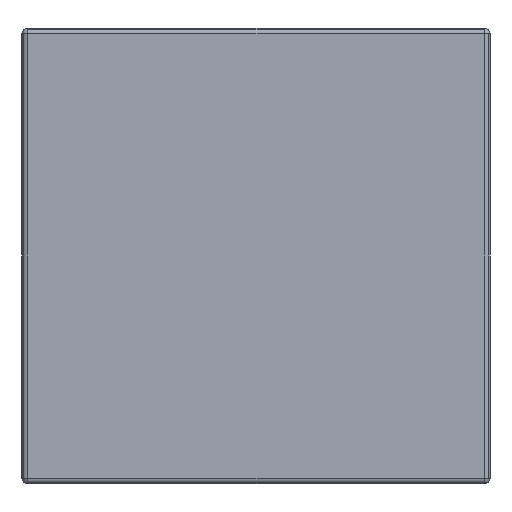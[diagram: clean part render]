
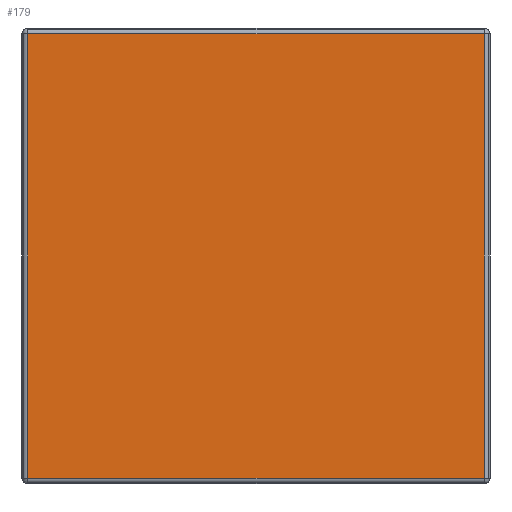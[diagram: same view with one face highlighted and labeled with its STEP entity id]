
A CAD part, left-side view. The second image highlights one B-rep face of the part: STEP entity #179.
In plain terms, the highlighted planar face has unit normal (-1, 0, 0).
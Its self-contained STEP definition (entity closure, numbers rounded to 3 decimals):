
#179=ADVANCED_FACE('',(#385),#386,.T.);
#385=FACE_OUTER_BOUND('',#601,.T.);
#386=PLANE('',#602);
#601=EDGE_LOOP('',(#1354,#1355,#1356,#1357));
#602=AXIS2_PLACEMENT_3D('',#1358,#1359,#1360);
#1354=ORIENTED_EDGE('',*,*,#1555,.F.);
#1355=ORIENTED_EDGE('',*,*,#1575,.T.);
#1356=ORIENTED_EDGE('',*,*,#1643,.T.);
#1357=ORIENTED_EDGE('',*,*,#1642,.F.);
#1358=CARTESIAN_POINT('',(-100.0,43.3,0.0));
#1359=DIRECTION('',(-1.0,-0.0,0.0));
#1360=DIRECTION('',(0.0,-1.0,-0.0));
#1555=EDGE_CURVE('',#1897,#1899,#1900,.T.);
#1575=EDGE_CURVE('',#1897,#1933,#1935,.T.);
#1642=EDGE_CURVE('',#1899,#2023,#2027,.T.);
#1643=EDGE_CURVE('',#1933,#2023,#2028,.T.);
#1897=VERTEX_POINT('',#2358);
#1899=VERTEX_POINT('',#2360);
#1900=LINE('',#2361,#2362);
#1933=VERTEX_POINT('',#2404);
#1935=LINE('',#2406,#2407);
#2023=VERTEX_POINT('',#2513);
#2027=LINE('',#2518,#2519);
#2028=LINE('',#2520,#2521);
#2358=CARTESIAN_POINT('',(-100.0,61.3,-78.0));
#2360=CARTESIAN_POINT('',(-100.0,61.3,78.0));
#2361=CARTESIAN_POINT('',(-100.0,61.3,0.0));
#2362=VECTOR('',#2826,200.0);
#2404=CARTESIAN_POINT('',(-100.0,-99.1,-78.0));
#2406=CARTESIAN_POINT('',(-100.0,43.3,-78.0));
#2407=VECTOR('',#2866,200.0);
#2513=CARTESIAN_POINT('',(-100.0,-99.1,78.0));
#2518=CARTESIAN_POINT('',(-100.0,43.3,78.0));
#2519=VECTOR('',#3027,200.0);
#2520=CARTESIAN_POINT('',(-100.0,-99.1,-50.0));
#2521=VECTOR('',#3028,200.0);
#2826=DIRECTION('',(0.0,0.0,1.0));
#2866=DIRECTION('',(0.0,-1.0,0.0));
#3027=DIRECTION('',(0.0,-1.0,0.0));
#3028=DIRECTION('',(0.0,0.0,1.0));
